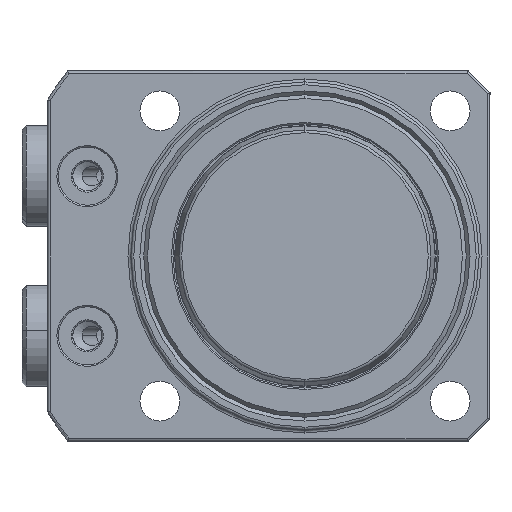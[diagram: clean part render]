
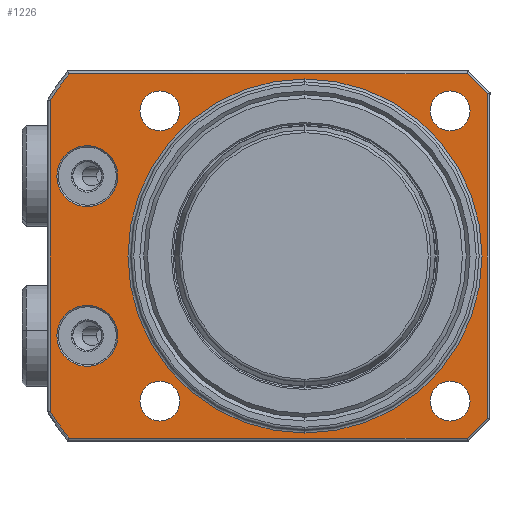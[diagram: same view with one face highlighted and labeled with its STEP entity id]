
A CAD part, front view. The second image highlights one B-rep face of the part: STEP entity #1226.
In plain terms, the highlighted planar face has unit normal (0, -1, 0) as drawn and (1, 0, 0) by its records, which use the part's own axes.
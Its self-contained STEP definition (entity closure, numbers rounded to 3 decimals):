
#839=PLANE('',#4754);
#914=FACE_BOUND('',#1724,.T.);
#915=FACE_BOUND('',#1725,.T.);
#916=FACE_BOUND('',#1726,.T.);
#917=FACE_BOUND('',#1727,.T.);
#918=FACE_BOUND('',#1728,.T.);
#919=FACE_BOUND('',#1729,.T.);
#920=FACE_BOUND('',#1730,.T.);
#921=FACE_BOUND('',#1731,.T.);
#1226=ADVANCED_FACE('',(#914,#915,#916,#917,#918,#919,#920,#921),#839,.F.);
#1724=EDGE_LOOP('',(#2625,#2626));
#1725=EDGE_LOOP('',(#2627,#2628));
#1726=EDGE_LOOP('',(#2629,#2630,#2631,#2632,#2633,#2634,#2635,#2636));
#1727=EDGE_LOOP('',(#2637,#2638));
#1728=EDGE_LOOP('',(#2639,#2640));
#1729=EDGE_LOOP('',(#2641,#2642));
#1730=EDGE_LOOP('',(#2643,#2644));
#1731=EDGE_LOOP('',(#2645,#2646));
#1992=LINE('',#7035,#2201);
#1993=LINE('',#7038,#2202);
#1994=LINE('',#7040,#2203);
#1995=LINE('',#7044,#2204);
#1996=LINE('',#7048,#2205);
#1997=LINE('',#7050,#2206);
#2201=VECTOR('',#5439,1.);
#2202=VECTOR('',#5440,1.);
#2203=VECTOR('',#5441,1.);
#2204=VECTOR('',#5444,1.);
#2205=VECTOR('',#5447,1.);
#2206=VECTOR('',#5448,1.);
#2625=ORIENTED_EDGE('',*,*,#3820,.T.);
#2626=ORIENTED_EDGE('',*,*,#4018,.T.);
#2627=ORIENTED_EDGE('',*,*,#3810,.T.);
#2628=ORIENTED_EDGE('',*,*,#4019,.T.);
#2629=ORIENTED_EDGE('',*,*,#4020,.T.);
#2630=ORIENTED_EDGE('',*,*,#4021,.T.);
#2631=ORIENTED_EDGE('',*,*,#4022,.T.);
#2632=ORIENTED_EDGE('',*,*,#4023,.T.);
#2633=ORIENTED_EDGE('',*,*,#4024,.T.);
#2634=ORIENTED_EDGE('',*,*,#4025,.T.);
#2635=ORIENTED_EDGE('',*,*,#4026,.T.);
#2636=ORIENTED_EDGE('',*,*,#4027,.T.);
#2637=ORIENTED_EDGE('',*,*,#4028,.T.);
#2638=ORIENTED_EDGE('',*,*,#3832,.T.);
#2639=ORIENTED_EDGE('',*,*,#4029,.T.);
#2640=ORIENTED_EDGE('',*,*,#3895,.T.);
#2641=ORIENTED_EDGE('',*,*,#4030,.T.);
#2642=ORIENTED_EDGE('',*,*,#3903,.T.);
#2643=ORIENTED_EDGE('',*,*,#4031,.T.);
#2644=ORIENTED_EDGE('',*,*,#3911,.T.);
#2645=ORIENTED_EDGE('',*,*,#4032,.T.);
#2646=ORIENTED_EDGE('',*,*,#3919,.T.);
#3455=VERTEX_POINT('',#6228);
#3456=VERTEX_POINT('',#6230);
#3465=VERTEX_POINT('',#6250);
#3466=VERTEX_POINT('',#6252);
#3477=VERTEX_POINT('',#6278);
#3478=VERTEX_POINT('',#6279);
#3533=VERTEX_POINT('',#6498);
#3534=VERTEX_POINT('',#6499);
#3541=VERTEX_POINT('',#6525);
#3542=VERTEX_POINT('',#6526);
#3549=VERTEX_POINT('',#6552);
#3550=VERTEX_POINT('',#6553);
#3557=VERTEX_POINT('',#6579);
#3558=VERTEX_POINT('',#6580);
#3609=VERTEX_POINT('',#7036);
#3610=VERTEX_POINT('',#7037);
#3611=VERTEX_POINT('',#7039);
#3612=VERTEX_POINT('',#7041);
#3613=VERTEX_POINT('',#7043);
#3614=VERTEX_POINT('',#7045);
#3615=VERTEX_POINT('',#7047);
#3616=VERTEX_POINT('',#7049);
#3810=EDGE_CURVE('',#3456,#3455,#4368,.T.);
#3820=EDGE_CURVE('',#3466,#3465,#4374,.T.);
#3832=EDGE_CURVE('',#3477,#3478,#4383,.T.);
#3895=EDGE_CURVE('',#3533,#3534,#4407,.T.);
#3903=EDGE_CURVE('',#3541,#3542,#4410,.T.);
#3911=EDGE_CURVE('',#3549,#3550,#4413,.T.);
#3919=EDGE_CURVE('',#3557,#3558,#4416,.T.);
#4018=EDGE_CURVE('',#3465,#3466,#4454,.T.);
#4019=EDGE_CURVE('',#3455,#3456,#4455,.T.);
#4020=EDGE_CURVE('',#3609,#3610,#1992,.T.);
#4021=EDGE_CURVE('',#3610,#3611,#1993,.T.);
#4022=EDGE_CURVE('',#3611,#3612,#1994,.T.);
#4023=EDGE_CURVE('',#3612,#3613,#4456,.T.);
#4024=EDGE_CURVE('',#3613,#3614,#1995,.T.);
#4025=EDGE_CURVE('',#3614,#3615,#4457,.T.);
#4026=EDGE_CURVE('',#3615,#3616,#1996,.T.);
#4027=EDGE_CURVE('',#3616,#3609,#1997,.T.);
#4028=EDGE_CURVE('',#3478,#3477,#4458,.T.);
#4029=EDGE_CURVE('',#3534,#3533,#4459,.T.);
#4030=EDGE_CURVE('',#3542,#3541,#4460,.T.);
#4031=EDGE_CURVE('',#3550,#3549,#4461,.T.);
#4032=EDGE_CURVE('',#3558,#3557,#4462,.T.);
#4368=CIRCLE('',#4603,4.2);
#4374=CIRCLE('',#4611,4.2);
#4383=CIRCLE('',#4623,24.4);
#4407=CIRCLE('',#4661,2.75);
#4410=CIRCLE('',#4666,2.75);
#4413=CIRCLE('',#4671,2.75);
#4416=CIRCLE('',#4676,2.75);
#4454=CIRCLE('',#4745,4.2);
#4455=CIRCLE('',#4746,4.2);
#4456=CIRCLE('',#4747,41.1);
#4457=CIRCLE('',#4748,41.1);
#4458=CIRCLE('',#4749,24.4);
#4459=CIRCLE('',#4750,2.75);
#4460=CIRCLE('',#4751,2.75);
#4461=CIRCLE('',#4752,2.75);
#4462=CIRCLE('',#4753,2.75);
#4603=AXIS2_PLACEMENT_3D('',#6229,#5077,#5078);
#4611=AXIS2_PLACEMENT_3D('',#6251,#5097,#5098);
#4623=AXIS2_PLACEMENT_3D('',#6277,#5124,#5125);
#4661=AXIS2_PLACEMENT_3D('',#6497,#5228,#5229);
#4666=AXIS2_PLACEMENT_3D('',#6524,#5242,#5243);
#4671=AXIS2_PLACEMENT_3D('',#6551,#5256,#5257);
#4676=AXIS2_PLACEMENT_3D('',#6578,#5270,#5271);
#4745=AXIS2_PLACEMENT_3D('',#7033,#5435,#5436);
#4746=AXIS2_PLACEMENT_3D('',#7034,#5437,#5438);
#4747=AXIS2_PLACEMENT_3D('',#7042,#5442,#5443);
#4748=AXIS2_PLACEMENT_3D('',#7046,#5445,#5446);
#4749=AXIS2_PLACEMENT_3D('',#7051,#5449,#5450);
#4750=AXIS2_PLACEMENT_3D('',#7052,#5451,#5452);
#4751=AXIS2_PLACEMENT_3D('',#7053,#5453,#5454);
#4752=AXIS2_PLACEMENT_3D('',#7054,#5455,#5456);
#4753=AXIS2_PLACEMENT_3D('',#7055,#5457,#5458);
#4754=AXIS2_PLACEMENT_3D('',#7056,#5459,#5460);
#5077=DIRECTION('',(-1.,0.,0.));
#5078=DIRECTION('',(0.,0.,1.));
#5097=DIRECTION('',(-1.,0.,0.));
#5098=DIRECTION('',(0.,0.,1.));
#5124=DIRECTION('',(-1.,0.,0.));
#5125=DIRECTION('',(0.,0.,1.));
#5228=DIRECTION('',(-1.,0.,0.));
#5229=DIRECTION('',(0.,0.,1.));
#5242=DIRECTION('',(-1.,0.,0.));
#5243=DIRECTION('',(0.,0.,1.));
#5256=DIRECTION('',(-1.,0.,0.));
#5257=DIRECTION('',(0.,0.,1.));
#5270=DIRECTION('',(-1.,0.,0.));
#5271=DIRECTION('',(0.,0.,1.));
#5435=DIRECTION('',(-1.,0.,0.));
#5436=DIRECTION('',(0.,0.,1.));
#5437=DIRECTION('',(-1.,0.,0.));
#5438=DIRECTION('',(0.,0.,1.));
#5439=DIRECTION('',(0.,0.,1.));
#5440=DIRECTION('',(0.,-0.707,0.707));
#5441=DIRECTION('',(0.,-1.,0.));
#5442=DIRECTION('',(1.,0.,0.));
#5443=DIRECTION('',(0.,0.,1.));
#5444=DIRECTION('',(0.,0.,-1.));
#5445=DIRECTION('',(1.,0.,0.));
#5446=DIRECTION('',(0.,0.,1.));
#5447=DIRECTION('',(0.,1.,0.));
#5448=DIRECTION('',(0.,0.707,0.707));
#5449=DIRECTION('',(-1.,0.,0.));
#5450=DIRECTION('',(0.,0.,1.));
#5451=DIRECTION('',(-1.,0.,0.));
#5452=DIRECTION('',(0.,0.,1.));
#5453=DIRECTION('',(-1.,0.,0.));
#5454=DIRECTION('',(0.,0.,1.));
#5455=DIRECTION('',(-1.,0.,0.));
#5456=DIRECTION('',(0.,0.,1.));
#5457=DIRECTION('',(-1.,0.,0.));
#5458=DIRECTION('',(0.,0.,1.));
#5459=DIRECTION('',(-1.,0.,0.));
#5460=DIRECTION('',(0.,0.,-1.));
#6228=CARTESIAN_POINT('',(0.,-30.,15.2));
#6229=CARTESIAN_POINT('',(0.,-30.,11.));
#6230=CARTESIAN_POINT('',(0.,-30.,6.8));
#6250=CARTESIAN_POINT('',(0.,-30.,-6.8));
#6251=CARTESIAN_POINT('',(0.,-30.,-11.));
#6252=CARTESIAN_POINT('',(0.,-30.,-15.2));
#6277=CARTESIAN_POINT('',(0.,0.,0.));
#6278=CARTESIAN_POINT('',(0.,0.,-24.4));
#6279=CARTESIAN_POINT('',(0.,0.,24.4));
#6497=CARTESIAN_POINT('',(0.,20.,-20.));
#6498=CARTESIAN_POINT('',(0.,20.,-22.75));
#6499=CARTESIAN_POINT('',(0.,20.,-17.25));
#6524=CARTESIAN_POINT('',(0.,20.,20.));
#6525=CARTESIAN_POINT('',(0.,20.,17.25));
#6526=CARTESIAN_POINT('',(0.,20.,22.75));
#6551=CARTESIAN_POINT('',(0.,-20.,20.));
#6552=CARTESIAN_POINT('',(0.,-20.,17.25));
#6553=CARTESIAN_POINT('',(0.,-20.,22.75));
#6578=CARTESIAN_POINT('',(0.,-20.,-20.));
#6579=CARTESIAN_POINT('',(0.,-20.,-22.75));
#6580=CARTESIAN_POINT('',(0.,-20.,-17.25));
#7033=CARTESIAN_POINT('',(0.,-30.,-11.));
#7034=CARTESIAN_POINT('',(0.,-30.,11.));
#7035=CARTESIAN_POINT('',(0.,25.1,22.5));
#7036=CARTESIAN_POINT('',(0.,25.1,-22.334));
#7037=CARTESIAN_POINT('',(0.,25.1,22.334));
#7038=CARTESIAN_POINT('',(0.,22.217,25.217));
#7039=CARTESIAN_POINT('',(0.,22.334,25.1));
#7040=CARTESIAN_POINT('',(0.,-32.741,25.1));
#7041=CARTESIAN_POINT('',(0.,-32.545,25.1));
#7042=CARTESIAN_POINT('',(0.,0.,0.));
#7043=CARTESIAN_POINT('',(0.,-35.1,21.382));
#7044=CARTESIAN_POINT('',(0.,-35.1,-21.494));
#7045=CARTESIAN_POINT('',(0.,-35.1,-21.382));
#7046=CARTESIAN_POINT('',(0.,0.,0.));
#7047=CARTESIAN_POINT('',(0.,-32.545,-25.1));
#7048=CARTESIAN_POINT('',(0.,22.5,-25.1));
#7049=CARTESIAN_POINT('',(0.,22.334,-25.1));
#7050=CARTESIAN_POINT('',(0.,25.217,-22.217));
#7051=CARTESIAN_POINT('',(0.,0.,0.));
#7052=CARTESIAN_POINT('',(0.,20.,-20.));
#7053=CARTESIAN_POINT('',(0.,20.,20.));
#7054=CARTESIAN_POINT('',(0.,-20.,20.));
#7055=CARTESIAN_POINT('',(0.,-20.,-20.));
#7056=CARTESIAN_POINT('',(0.,0.,0.));
